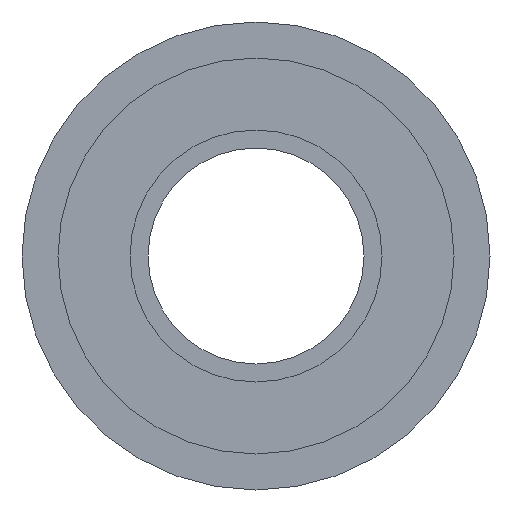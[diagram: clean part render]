
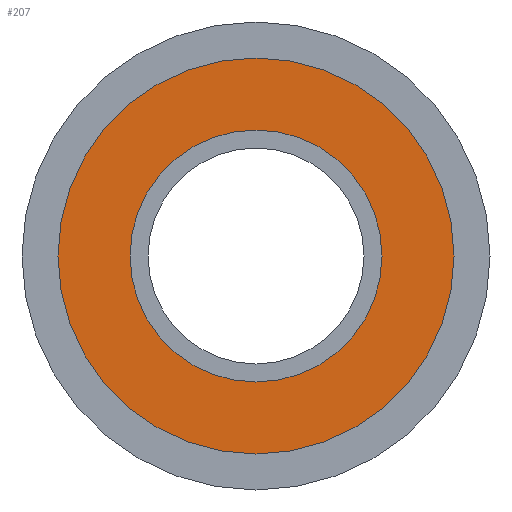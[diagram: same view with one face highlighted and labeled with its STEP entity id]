
A CAD part, left-side view. The second image highlights one B-rep face of the part: STEP entity #207.
In plain terms, the highlighted planar face has unit normal (-1, 0, 0).
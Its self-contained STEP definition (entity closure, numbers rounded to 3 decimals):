
#3 = AXIS2_PLACEMENT_3D ( 'NONE', #348, #426, #440 ) ;
#9 = DIRECTION ( 'NONE',  ( -1., 0., 0. ) ) ;
#17 = DIRECTION ( 'NONE',  ( 0., 0., 1. ) ) ;
#25 = CIRCLE ( 'NONE', #3, 7. ) ;
#28 = PLANE ( 'NONE',  #90 ) ;
#30 = AXIS2_PLACEMENT_3D ( 'NONE', #181, #358, #357 ) ;
#52 = DIRECTION ( 'NONE',  ( -1., 0., 0. ) ) ;
#53 = CARTESIAN_POINT ( 'NONE',  ( 2.1, 0., 0. ) ) ;
#70 = DIRECTION ( 'NONE',  ( 0., 0., -1. ) ) ;
#79 = EDGE_LOOP ( 'NONE', ( #284, #257 ) ) ;
#90 = AXIS2_PLACEMENT_3D ( 'NONE', #258, #254, #70 ) ;
#96 = FACE_OUTER_BOUND ( 'NONE', #416, .T. ) ;
#145 = DIRECTION ( 'NONE',  ( 0., 0., 1. ) ) ;
#181 = CARTESIAN_POINT ( 'NONE',  ( 2.1, 0., 0. ) ) ;
#192 = CARTESIAN_POINT ( 'NONE',  ( 2.1, 0., -7. ) ) ;
#207 = ADVANCED_FACE ( 'NONE', ( #369, #96 ), #28, .F. ) ;
#232 = CARTESIAN_POINT ( 'NONE',  ( 2.1, 0., -11. ) ) ;
#254 = DIRECTION ( 'NONE',  ( 1., 0., 0. ) ) ;
#257 = ORIENTED_EDGE ( 'NONE', *, *, #436, .F. ) ;
#258 = CARTESIAN_POINT ( 'NONE',  ( 2.1, 7., 0. ) ) ;
#284 = ORIENTED_EDGE ( 'NONE', *, *, #373, .F. ) ;
#301 = ORIENTED_EDGE ( 'NONE', *, *, #455, .T. ) ;
#305 = ORIENTED_EDGE ( 'NONE', *, *, #360, .T. ) ;
#320 = VERTEX_POINT ( 'NONE', #438 ) ;
#327 = CARTESIAN_POINT ( 'NONE',  ( 2.1, 0., 0. ) ) ;
#348 = CARTESIAN_POINT ( 'NONE',  ( 2.1, 0., 0. ) ) ;
#354 = CARTESIAN_POINT ( 'NONE',  ( 2.1, 0., 11. ) ) ;
#356 = CIRCLE ( 'NONE', #430, 11. ) ;
#357 = DIRECTION ( 'NONE',  ( 0., 0., 1. ) ) ;
#358 = DIRECTION ( 'NONE',  ( -1., 0., 0. ) ) ;
#360 = EDGE_CURVE ( 'NONE', #433, #396, #390, .T. ) ;
#369 = FACE_BOUND ( 'NONE', #79, .T. ) ;
#373 = EDGE_CURVE ( 'NONE', #320, #469, #25, .T. ) ;
#390 = CIRCLE ( 'NONE', #30, 11. ) ;
#396 = VERTEX_POINT ( 'NONE', #354 ) ;
#416 = EDGE_LOOP ( 'NONE', ( #301, #305 ) ) ;
#426 = DIRECTION ( 'NONE',  ( -1., 0., 0. ) ) ;
#429 = AXIS2_PLACEMENT_3D ( 'NONE', #327, #9, #17 ) ;
#430 = AXIS2_PLACEMENT_3D ( 'NONE', #53, #52, #145 ) ;
#433 = VERTEX_POINT ( 'NONE', #232 ) ;
#436 = EDGE_CURVE ( 'NONE', #469, #320, #519, .T. ) ;
#438 = CARTESIAN_POINT ( 'NONE',  ( 2.1, 0., 7. ) ) ;
#440 = DIRECTION ( 'NONE',  ( 0., 0., 1. ) ) ;
#455 = EDGE_CURVE ( 'NONE', #396, #433, #356, .T. ) ;
#469 = VERTEX_POINT ( 'NONE', #192 ) ;
#519 = CIRCLE ( 'NONE', #429, 7. ) ;
